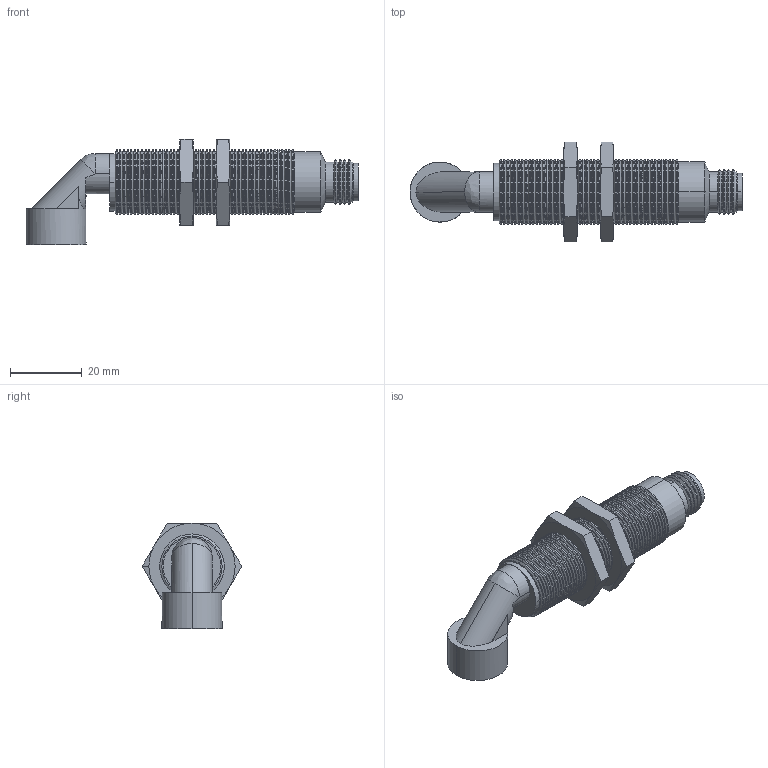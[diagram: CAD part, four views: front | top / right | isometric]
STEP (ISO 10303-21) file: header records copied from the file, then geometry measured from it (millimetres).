
FILE_DESCRIPTION (( 'STEP AP203' ), '1' );
FILE_NAME ('90-29417-086.STEP', '2016-05-26T13:04:31', ( 'Sam' ), ( 'Spade' ), 'SwSTEP 2.0', 'SolidWorks 2002296', '' );
FILE_SCHEMA (( 'CONFIG_CONTROL_DESIGN' ));
Length unit declared in the file: inch
Products named in the file (9): 90-29417-086; Imported23; Imported22; Imported21; Imported28; Imported27; Imported26; Imported25; Imported24
Assembly tree (8 placements, depth 2):
  90-29417-086
    Imported26
    Imported21
    Imported22
    Imported27
    Imported28
    Imported23
    Imported24
    Imported25
Bounding box: 92.33 x 27.69 x 29.39 mm (x, y, z)
Volume: 22284.3 mm3; surface area: 11234.9 mm2
Topology: 8 solids, 8 shells, 585 faces, 1207 edges, 641 vertices
Faces by surface type: cone 282, cylinder 240, plane 56, bspline 7
Entity records: 16175 total; most frequent: DIRECTION 2907, CARTESIAN_POINT 2787, ORIENTED_EDGE 2402, EDGE_CURVE 1201, AXIS2_PLACEMENT_3D 1187, VERTEX_POINT 641, CIRCLE 598, EDGE_LOOP 598
